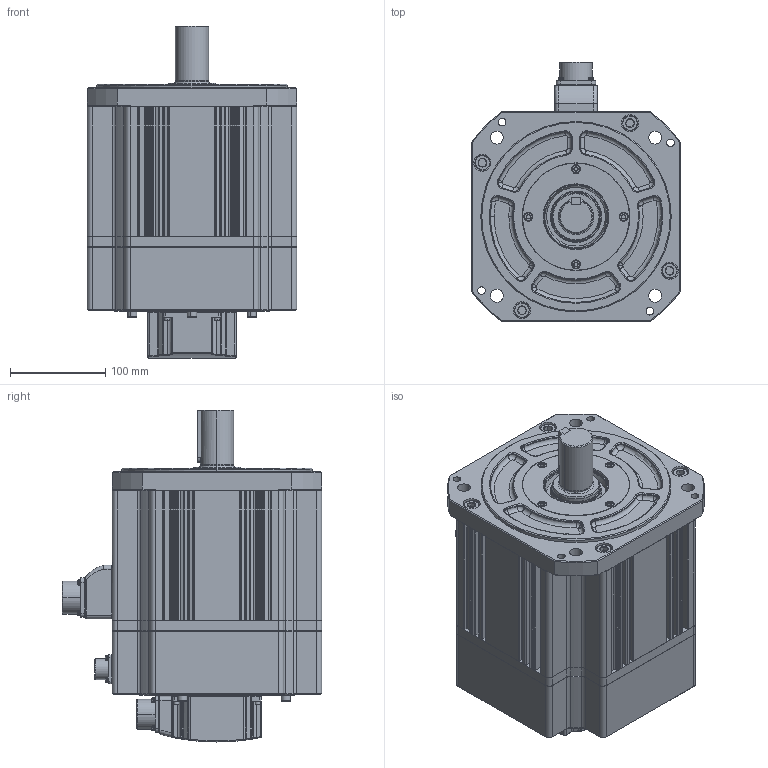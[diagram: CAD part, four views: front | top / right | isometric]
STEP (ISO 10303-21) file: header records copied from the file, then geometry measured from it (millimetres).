
FILE_DESCRIPTION (( 'STEP AP214' ), '1' );
FILE_NAME ('FM22GA007-1G03_Out Line(APM-FG55D_K3,FG44G_K3,FG30M_K3).STEP', '2019-07-11T01:13:14', ( '' ), ( '' ), 'SwSTEP 2.0', 'SolidWorks 2011', '' );
FILE_SCHEMA (( 'AUTOMOTIVE_DESIGN' ));
Length unit declared in the file: millimetre
Products named in the file (1): FM22GA007-1G03_Out Line(APM-FG55D_K3,FG44G_K3,FG30M_K3)
Bounding box: 220 x 272.5 x 348.7 mm (x, y, z)
Volume: 10375215.1 mm3; surface area: 805591.8 mm2
Topology: 76 solids, 76 shells, 2595 faces, 6412 edges, 4058 vertices
Faces by surface type: cylinder 1010, plane 905, cone 346, torus 183, bspline 151
Entity records: 115240 total; most frequent: CARTESIAN_POINT 23754, DIRECTION 13407, ORIENTED_EDGE 12660, EDGE_CURVE 6330, AXIS2_PLACEMENT_3D 5193, VERTEX_POINT 4058, VECTOR 3021, LINE 3021
